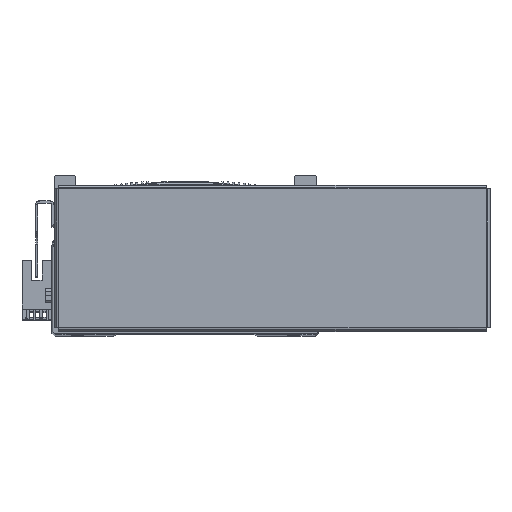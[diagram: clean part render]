
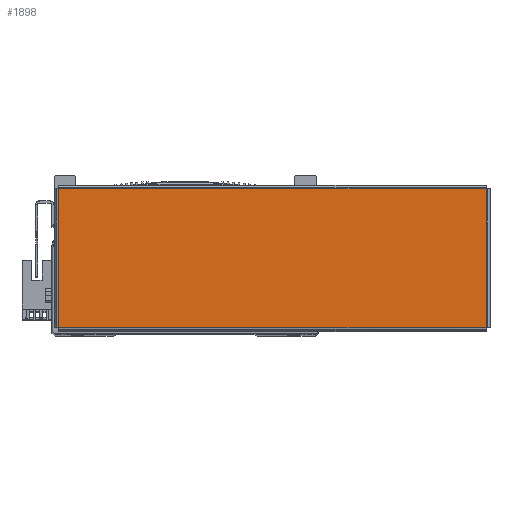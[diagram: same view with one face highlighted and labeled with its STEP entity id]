
A CAD part, top view. The second image highlights one B-rep face of the part: STEP entity #1898.
In plain terms, the highlighted planar face has unit normal (0, 0, 1) as drawn and (0, 0, -1) by its records, which use the part's own axes.
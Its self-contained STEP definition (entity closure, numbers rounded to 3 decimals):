
#1898 = ADVANCED_FACE ( 'NONE', ( #36573 ), #62096, .F. ) ;
#5083 = ORIENTED_EDGE ( 'NONE', *, *, #72685, .T. ) ;
#5227 = ORIENTED_EDGE ( 'NONE', *, *, #72695, .T. ) ;
#5291 = ORIENTED_EDGE ( 'NONE', *, *, #72673, .T. ) ;
#5293 = ORIENTED_EDGE ( 'NONE', *, *, #72711, .T. ) ;
#16034 = VERTEX_POINT ( 'NONE', #21258 ) ;
#16063 = VERTEX_POINT ( 'NONE', #21256 ) ;
#16094 = VERTEX_POINT ( 'NONE', #21275 ) ;
#16121 = VERTEX_POINT ( 'NONE', #21291 ) ;
#21256 = CARTESIAN_POINT ( 'NONE',  ( 97.863, -31.763, -1. ) ) ;
#21258 = CARTESIAN_POINT ( 'NONE',  ( 97.863, 31.763, -1. ) ) ;
#21275 = CARTESIAN_POINT ( 'NONE',  ( -97.863, 31.763, -1. ) ) ;
#21291 = CARTESIAN_POINT ( 'NONE',  ( -97.863, -31.763, -1. ) ) ;
#36573 = FACE_OUTER_BOUND ( 'NONE', #64695, .T. ) ;
#57833 = AXIS2_PLACEMENT_3D ( 'NONE', #62109, #62078, #62080 ) ;
#62078 = DIRECTION ( 'NONE',  ( 0., 0., 1. ) ) ;
#62080 = DIRECTION ( 'NONE',  ( 1., 0., 0. ) ) ;
#62096 = PLANE ( 'NONE',  #57833 ) ;
#62109 = CARTESIAN_POINT ( 'NONE',  ( 0., 0., -1. ) ) ;
#64695 = EDGE_LOOP ( 'NONE', ( #5291, #5227, #5293, #5083 ) ) ;
#66145 = CARTESIAN_POINT ( 'NONE',  ( 97.863, 31.793, -1. ) ) ;
#66151 = DIRECTION ( 'NONE',  ( 0., -1., 0. ) ) ;
#66158 = CARTESIAN_POINT ( 'NONE',  ( 97.893, -31.763, -1. ) ) ;
#66160 = DIRECTION ( 'NONE',  ( -1., 0., 0. ) ) ;
#66165 = CARTESIAN_POINT ( 'NONE',  ( -97.893, 31.763, -1. ) ) ;
#66181 = DIRECTION ( 'NONE',  ( 1., 0., 0. ) ) ;
#66265 = DIRECTION ( 'NONE',  ( 0., 1., 0. ) ) ;
#66283 = CARTESIAN_POINT ( 'NONE',  ( -97.863, -31.793, -1. ) ) ;
#66826 = LINE ( 'NONE', #66145, #66849 ) ;
#66835 = LINE ( 'NONE', #66165, #66854 ) ;
#66849 = VECTOR ( 'NONE', #66151, 1000. ) ;
#66854 = VECTOR ( 'NONE', #66181, 1000. ) ;
#66876 = VECTOR ( 'NONE', #66265, 1000. ) ;
#66895 = VECTOR ( 'NONE', #66160, 1000. ) ;
#66914 = LINE ( 'NONE', #66283, #66876 ) ;
#66930 = LINE ( 'NONE', #66158, #66895 ) ;
#72673 = EDGE_CURVE ( 'NONE', #16034, #16063, #66826, .T. ) ;
#72685 = EDGE_CURVE ( 'NONE', #16094, #16034, #66835, .T. ) ;
#72695 = EDGE_CURVE ( 'NONE', #16063, #16121, #66930, .T. ) ;
#72711 = EDGE_CURVE ( 'NONE', #16121, #16094, #66914, .T. ) ;
